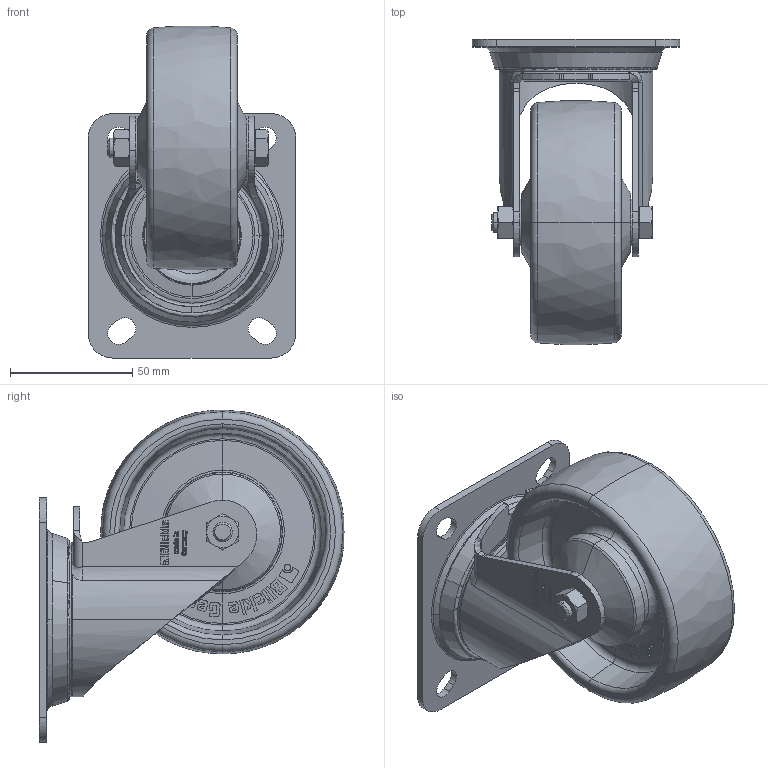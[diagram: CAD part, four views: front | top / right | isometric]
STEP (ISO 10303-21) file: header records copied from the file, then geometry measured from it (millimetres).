
FILE_DESCRIPTION (( 'STEP AP214' ), '1' );
FILE_NAME ('LX-PO_100KD_755166-214.step', '2022-01-06T09:42:19', ( '' ), ( '' ), 'SwSTEP 2.0', 'SolidWorks 2018', '' );
FILE_SCHEMA (( 'AUTOMOTIVE_DESIGN' ));
Length unit declared in the file: millimetre
Products named in the file (5): LX-PO_100KD_755166-214; GH-LX_100-200_GH-LX-100x45-01_8x46; GH-LX-100x45-01_8x46_G16_3D; PO_50-125_3D_G16_PO_100_8KD_845600; PO_100_8KD_G16_3D
Assembly tree (4 placements, depth 3):
  LX-PO_100KD_755166-214
    GH-LX_100-200_GH-LX-100x45-01_8x46
      GH-LX-100x45-01_8x46_G16_3D
    PO_50-125_3D_G16_PO_100_8KD_845600
      PO_100_8KD_G16_3D
Bounding box: 85 x 124.91 x 135.9 mm (x, y, z)
Volume: 226920.1 mm3; surface area: 97615.9 mm2
Topology: 2 solids, 6 shells, 1833 faces, 4829 edges, 3147 vertices
Faces by surface type: plane 810, bspline 652, cone 159, cylinder 110, torus 102
Entity records: 65744 total; most frequent: CARTESIAN_POINT 25073, ORIENTED_EDGE 9658, DIRECTION 5876, EDGE_CURVE 4829, VERTEX_POINT 3147, LINE 2276, VECTOR 2276, EDGE_LOOP 1994
